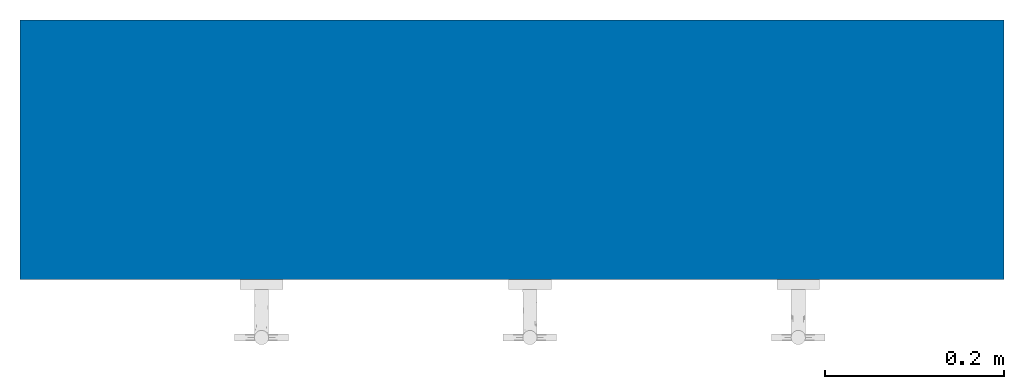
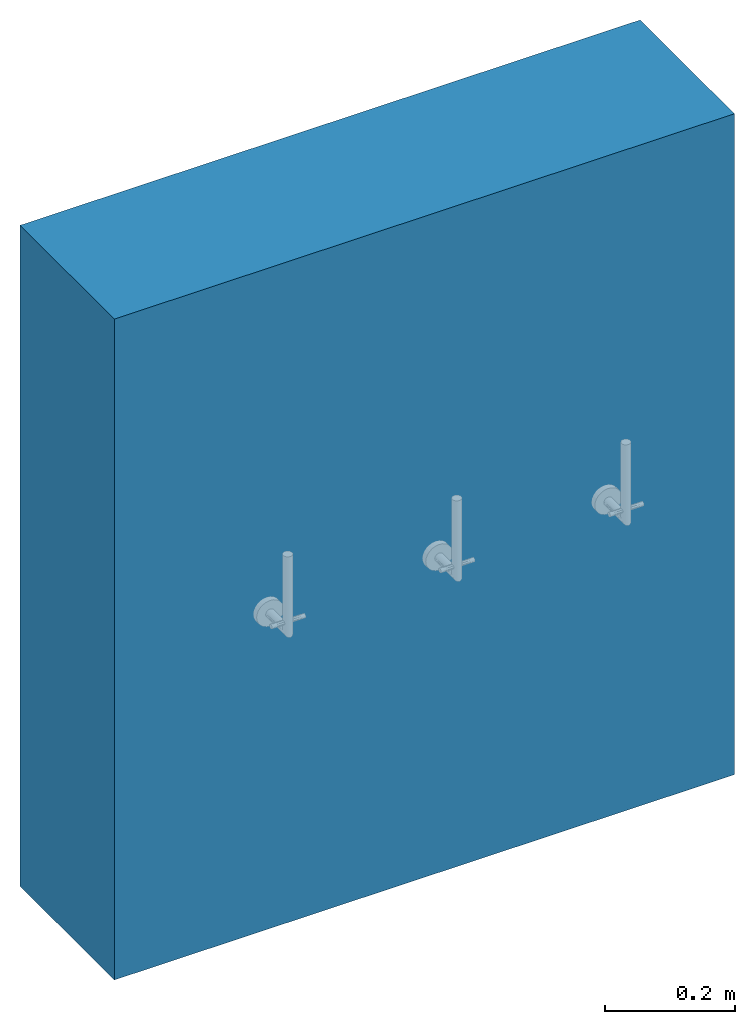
# One storey, part 1 of 3: 1 wall.
"""IFC2X3 building model written with IfcOpenShell, lengths in millimetres."""

from ifc_helpers import new_model, entity, si_unit, converted_unit, derived_unit, direction, frame, frame_2d, origin, place, context, subcontext, project, spatial, rectangle, extrude, material, layer, layer_set, layer_usage, type_object, element, save


model = new_model("IFC2X3")

# Units and contexts
model_context = context("Model", 3, precision=0.01, world=origin(), true_north=direction((6.12303176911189e-17, 1.0)))
body_context = subcontext(model_context, "Body", "Model", "MODEL_VIEW")
ifc_project = project(units=[si_unit("LENGTHUNIT", "METRE", prefix="MILLI"), si_unit("AREAUNIT", "SQUARE_METRE"), si_unit("VOLUMEUNIT", "CUBIC_METRE"), converted_unit("PLANEANGLEUNIT", "DEGREE", entity("IfcRatioMeasure", 0.0174532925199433), si_unit("PLANEANGLEUNIT", "RADIAN"), dimensions=[0, 0, 0, 0, 0, 0, 0]), si_unit("MASSUNIT", "GRAM", prefix="KILO"), derived_unit("MASSDENSITYUNIT", [(si_unit("MASSUNIT", "GRAM", prefix="KILO"), 1), (si_unit("LENGTHUNIT", "METRE"), -3)]), si_unit("TIMEUNIT", "SECOND"), si_unit("FREQUENCYUNIT", "HERTZ"), si_unit("THERMODYNAMICTEMPERATUREUNIT", "DEGREE_CELSIUS"), derived_unit("THERMALTRANSMITTANCEUNIT", [(si_unit("MASSUNIT", "GRAM", prefix="KILO"), 1), (si_unit("THERMODYNAMICTEMPERATUREUNIT", "KELVIN"), -1), (si_unit("TIMEUNIT", "SECOND"), -3)]), derived_unit("VOLUMETRICFLOWRATEUNIT", [(si_unit("LENGTHUNIT", "METRE"), 3), (si_unit("TIMEUNIT", "SECOND"), -1)]), si_unit("ELECTRICCURRENTUNIT", "AMPERE"), si_unit("ELECTRICVOLTAGEUNIT", "VOLT"), si_unit("POWERUNIT", "WATT"), si_unit("FORCEUNIT", "NEWTON", prefix="KILO"), si_unit("ILLUMINANCEUNIT", "LUX"), si_unit("LUMINOUSFLUXUNIT", "LUMEN"), si_unit("LUMINOUSINTENSITYUNIT", "CANDELA"), derived_unit("USERDEFINED", [(si_unit("MASSUNIT", "GRAM", prefix="KILO"), -1), (si_unit("LENGTHUNIT", "METRE"), -2), (si_unit("TIMEUNIT", "SECOND"), 3), (si_unit("LUMINOUSFLUXUNIT", "LUMEN"), 1)]), derived_unit("LINEARVELOCITYUNIT", [(si_unit("LENGTHUNIT", "METRE"), 1), (si_unit("TIMEUNIT", "SECOND"), -1)]), si_unit("PRESSUREUNIT", "PASCAL"), derived_unit("USERDEFINED", [(si_unit("LENGTHUNIT", "METRE"), -2), (si_unit("MASSUNIT", "GRAM", prefix="KILO"), 1), (si_unit("TIMEUNIT", "SECOND"), -2)])], contexts=[model_context])

# Site, building, storey
site_placement = place(None, origin())
site = spatial("IfcSite", under=ifc_project, at=site_placement, Name="Default", CompositionType="ELEMENT")
building_placement = place(site_placement, origin())
building = spatial("IfcBuilding", under=site, at=building_placement, CompositionType="ELEMENT")
storey_placement = place(building_placement, origin())
storey = spatial("IfcBuildingStorey", under=building, at=storey_placement, Name="Level 0", CompositionType="ELEMENT", Elevation=0.0)

# Wall
ifc_material_1 = material(Name="Brick, Common")
ifc_layer_1 = layer(ifc_material_1, 102.5)
ifc_material_2 = material(Name="Fiberglass Batt")
ifc_layer_2 = layer(ifc_material_2, 75.0)
ifc_material_3 = material(Name="Concrete Masonry Units _Low Density")
ifc_layer_3 = layer(ifc_material_3, 100.0)
ifc_material_4 = material(Name="Plaster")
ifc_layer_4 = layer(ifc_material_4, 12.5)
ifc_layer_set = layer_set([ifc_layer_1, ifc_layer_2, ifc_layer_3, ifc_layer_4], Name="Basic Wall:Wall-Ext_102Bwk-75Ins-100LBlk-12P")
ifc_layer_usage = layer_usage(ifc_layer_set, "AXIS2", "NEGATIVE", 145.0)
wall_type = type_object("IfcWallType", Name="Basic Wall:Wall-Ext_102Bwk-75Ins-100LBlk-12P", PredefinedType="STANDARD", material=ifc_layer_set)
wall_placement = place(storey_placement, frame((-5132.06711548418, 926.719275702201, 0.0)))
element("IfcWallStandardCase", 1, at=wall_placement, inside=storey, type_object=wall_type, material=ifc_layer_usage, Name="Basic Wall:Wall-Ext_102Bwk-75Ins-100LBlk-12P", ObjectType="Basic Wall:Wall-Ext_102Bwk-75Ins-100LBlk-12P", context=body_context, shape_type="SweptSolid", body=[
    extrude(rectangle(XDim=1100.0, YDim=290.0, at=frame_2d((550.0, -4.2632564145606e-14), x_axis=(-1.0, 0.0))), origin(), (0.0, 0.0, 1.0), 1239.61705843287),
])

save(model, "model.ifc")
